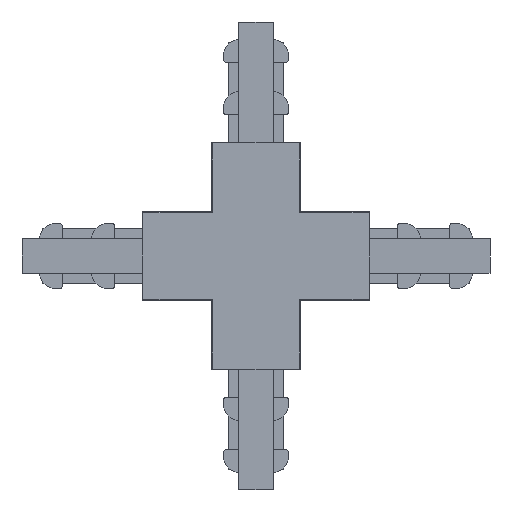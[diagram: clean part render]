
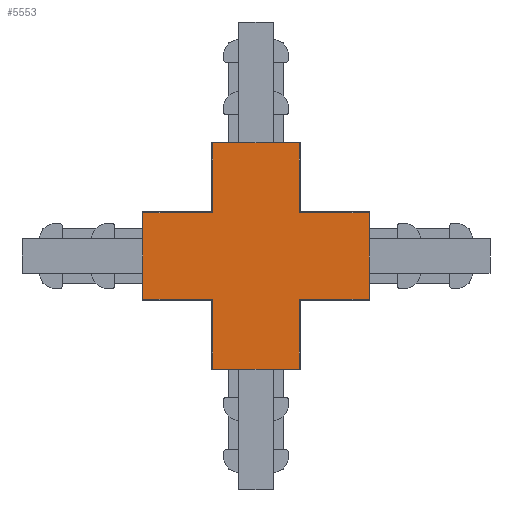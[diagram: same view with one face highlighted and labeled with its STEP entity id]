
A CAD part, front view. The second image highlights one B-rep face of the part: STEP entity #5553.
In plain terms, the highlighted planar face has unit normal (0, -1, 0).
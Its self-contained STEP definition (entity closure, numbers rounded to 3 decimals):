
#211 = EDGE_CURVE ( 'NONE', #8181, #4543, #3355, .T. ) ;
#377 = DIRECTION ( 'NONE',  ( 1., 0., 0. ) ) ;
#533 = ORIENTED_EDGE ( 'NONE', *, *, #2641, .F. ) ;
#777 = CARTESIAN_POINT ( 'NONE',  ( 392.935, 139.387, 62.208 ) ) ;
#888 = DIRECTION ( 'NONE',  ( 0., 0., -1. ) ) ;
#974 = CARTESIAN_POINT ( 'NONE',  ( 420.727, 139.387, 90. ) ) ;
#992 = CARTESIAN_POINT ( 'NONE',  ( 455.143, 139.387, 90. ) ) ;
#1089 = CARTESIAN_POINT ( 'NONE',  ( 455.143, 139.387, 90. ) ) ;
#1262 = EDGE_CURVE ( 'NONE', #4543, #7924, #2537, .T. ) ;
#1268 = LINE ( 'NONE', #8148, #4812 ) ;
#1363 = DIRECTION ( 'NONE',  ( 1., 0., 0. ) ) ;
#1726 = ORIENTED_EDGE ( 'NONE', *, *, #6806, .T. ) ;
#1957 = CARTESIAN_POINT ( 'NONE',  ( 420.727, 139.387, 90. ) ) ;
#1980 = DIRECTION ( 'NONE',  ( 0., 0., -1. ) ) ;
#2019 = VERTEX_POINT ( 'NONE', #4800 ) ;
#2218 = VECTOR ( 'NONE', #3278, 1000. ) ;
#2221 = VECTOR ( 'NONE', #3857, 1000. ) ;
#2299 = CARTESIAN_POINT ( 'NONE',  ( 420.727, 139.387, 90. ) ) ;
#2366 = ORIENTED_EDGE ( 'NONE', *, *, #4195, .F. ) ;
#2397 = CARTESIAN_POINT ( 'NONE',  ( 420.727, 139.387, 0. ) ) ;
#2473 = VECTOR ( 'NONE', #8387, 1000. ) ;
#2537 = LINE ( 'NONE', #5748, #2473 ) ;
#2578 = ORIENTED_EDGE ( 'NONE', *, *, #6230, .F. ) ;
#2641 = EDGE_CURVE ( 'NONE', #5129, #5613, #6792, .T. ) ;
#2813 = DIRECTION ( 'NONE',  ( 1., 0., 0. ) ) ;
#2901 = VECTOR ( 'NONE', #1363, 1000. ) ;
#2962 = LINE ( 'NONE', #3475, #8018 ) ;
#2998 = VERTEX_POINT ( 'NONE', #3122 ) ;
#3008 = CARTESIAN_POINT ( 'NONE',  ( 420.727, 139.387, 0. ) ) ;
#3122 = CARTESIAN_POINT ( 'NONE',  ( 482.935, 139.387, 62.208 ) ) ;
#3136 = LINE ( 'NONE', #992, #4012 ) ;
#3278 = DIRECTION ( 'NONE',  ( 0., 0., 1. ) ) ;
#3303 = LINE ( 'NONE', #6701, #7876 ) ;
#3355 = LINE ( 'NONE', #7322, #2901 ) ;
#3432 = EDGE_CURVE ( 'NONE', #4455, #8181, #3303, .T. ) ;
#3465 = EDGE_CURVE ( 'NONE', #5129, #6119, #6954, .T. ) ;
#3475 = CARTESIAN_POINT ( 'NONE',  ( 343.569, 139.387, 27.792 ) ) ;
#3617 = VERTEX_POINT ( 'NONE', #7504 ) ;
#3678 = DIRECTION ( 'NONE',  ( 0., 0., -1. ) ) ;
#3718 = CARTESIAN_POINT ( 'NONE',  ( 455.143, 139.387, 90. ) ) ;
#3857 = DIRECTION ( 'NONE',  ( 1., 0., 0. ) ) ;
#3900 = DIRECTION ( 'NONE',  ( 0., 0., 1. ) ) ;
#3939 = FACE_OUTER_BOUND ( 'NONE', #5278, .T. ) ;
#3961 = ORIENTED_EDGE ( 'NONE', *, *, #4031, .T. ) ;
#4012 = VECTOR ( 'NONE', #4333, 1000. ) ;
#4031 = EDGE_CURVE ( 'NONE', #7924, #4177, #4446, .T. ) ;
#4177 = VERTEX_POINT ( 'NONE', #6623 ) ;
#4195 = EDGE_CURVE ( 'NONE', #5613, #2019, #3136, .T. ) ;
#4256 = ORIENTED_EDGE ( 'NONE', *, *, #3465, .T. ) ;
#4333 = DIRECTION ( 'NONE',  ( 0., 0., -1. ) ) ;
#4446 = LINE ( 'NONE', #3008, #2221 ) ;
#4455 = VERTEX_POINT ( 'NONE', #777 ) ;
#4512 = LINE ( 'NONE', #4554, #2218 ) ;
#4543 = VERTEX_POINT ( 'NONE', #7319 ) ;
#4554 = CARTESIAN_POINT ( 'NONE',  ( 482.935, 139.387, 27.792 ) ) ;
#4800 = CARTESIAN_POINT ( 'NONE',  ( 455.143, 139.387, 62.208 ) ) ;
#4812 = VECTOR ( 'NONE', #2813, 1000. ) ;
#4849 = ORIENTED_EDGE ( 'NONE', *, *, #3432, .T. ) ;
#4870 = ORIENTED_EDGE ( 'NONE', *, *, #6285, .T. ) ;
#4873 = ORIENTED_EDGE ( 'NONE', *, *, #6101, .F. ) ;
#4910 = VERTEX_POINT ( 'NONE', #6497 ) ;
#5129 = VERTEX_POINT ( 'NONE', #974 ) ;
#5204 = VECTOR ( 'NONE', #6150, 1000. ) ;
#5278 = EDGE_LOOP ( 'NONE', ( #4256, #6489, #4849, #7310, #6547, #3961, #2578, #1726, #4870, #4873, #2366, #533 ) ) ;
#5465 = CARTESIAN_POINT ( 'NONE',  ( 343.569, 139.387, 62.208 ) ) ;
#5551 = CARTESIAN_POINT ( 'NONE',  ( 420.727, 139.387, 62.208 ) ) ;
#5553 = ADVANCED_FACE ( 'NONE', ( #3939 ), #5809, .F. ) ;
#5613 = VERTEX_POINT ( 'NONE', #3718 ) ;
#5642 = CARTESIAN_POINT ( 'NONE',  ( 420.727, 139.387, 90. ) ) ;
#5748 = CARTESIAN_POINT ( 'NONE',  ( 420.727, 139.387, 90. ) ) ;
#5809 = PLANE ( 'NONE',  #7588 ) ;
#6101 = EDGE_CURVE ( 'NONE', #2019, #2998, #1268, .T. ) ;
#6119 = VERTEX_POINT ( 'NONE', #5551 ) ;
#6150 = DIRECTION ( 'NONE',  ( 1., 0., 0. ) ) ;
#6230 = EDGE_CURVE ( 'NONE', #3617, #4177, #6949, .T. ) ;
#6285 = EDGE_CURVE ( 'NONE', #4910, #2998, #4512, .T. ) ;
#6489 = ORIENTED_EDGE ( 'NONE', *, *, #8270, .F. ) ;
#6497 = CARTESIAN_POINT ( 'NONE',  ( 482.935, 139.387, 27.792 ) ) ;
#6542 = DIRECTION ( 'NONE',  ( 0., 1., 0. ) ) ;
#6547 = ORIENTED_EDGE ( 'NONE', *, *, #1262, .T. ) ;
#6623 = CARTESIAN_POINT ( 'NONE',  ( 455.143, 139.387, 0. ) ) ;
#6701 = CARTESIAN_POINT ( 'NONE',  ( 392.935, 139.387, 27.792 ) ) ;
#6709 = LINE ( 'NONE', #5465, #7355 ) ;
#6792 = LINE ( 'NONE', #2299, #5204 ) ;
#6806 = EDGE_CURVE ( 'NONE', #3617, #4910, #2962, .T. ) ;
#6871 = VECTOR ( 'NONE', #1980, 1000. ) ;
#6949 = LINE ( 'NONE', #1089, #6871 ) ;
#6954 = LINE ( 'NONE', #5642, #7617 ) ;
#7310 = ORIENTED_EDGE ( 'NONE', *, *, #211, .T. ) ;
#7319 = CARTESIAN_POINT ( 'NONE',  ( 420.727, 139.387, 27.792 ) ) ;
#7322 = CARTESIAN_POINT ( 'NONE',  ( 343.569, 139.387, 27.792 ) ) ;
#7353 = DIRECTION ( 'NONE',  ( 1., 0., 0. ) ) ;
#7355 = VECTOR ( 'NONE', #7353, 1000. ) ;
#7480 = CARTESIAN_POINT ( 'NONE',  ( 392.935, 139.387, 27.792 ) ) ;
#7504 = CARTESIAN_POINT ( 'NONE',  ( 455.143, 139.387, 27.792 ) ) ;
#7588 = AXIS2_PLACEMENT_3D ( 'NONE', #1957, #6542, #3900 ) ;
#7617 = VECTOR ( 'NONE', #3678, 1000. ) ;
#7876 = VECTOR ( 'NONE', #888, 1000. ) ;
#7924 = VERTEX_POINT ( 'NONE', #2397 ) ;
#8018 = VECTOR ( 'NONE', #377, 1000. ) ;
#8148 = CARTESIAN_POINT ( 'NONE',  ( 343.569, 139.387, 62.208 ) ) ;
#8181 = VERTEX_POINT ( 'NONE', #7480 ) ;
#8270 = EDGE_CURVE ( 'NONE', #4455, #6119, #6709, .T. ) ;
#8387 = DIRECTION ( 'NONE',  ( 0., 0., -1. ) ) ;
